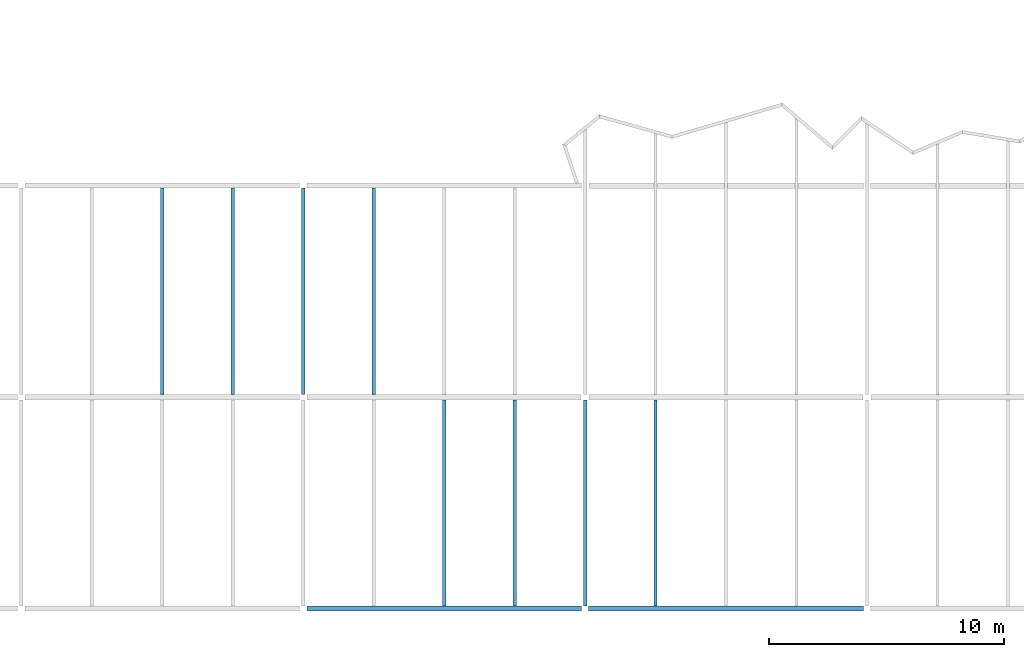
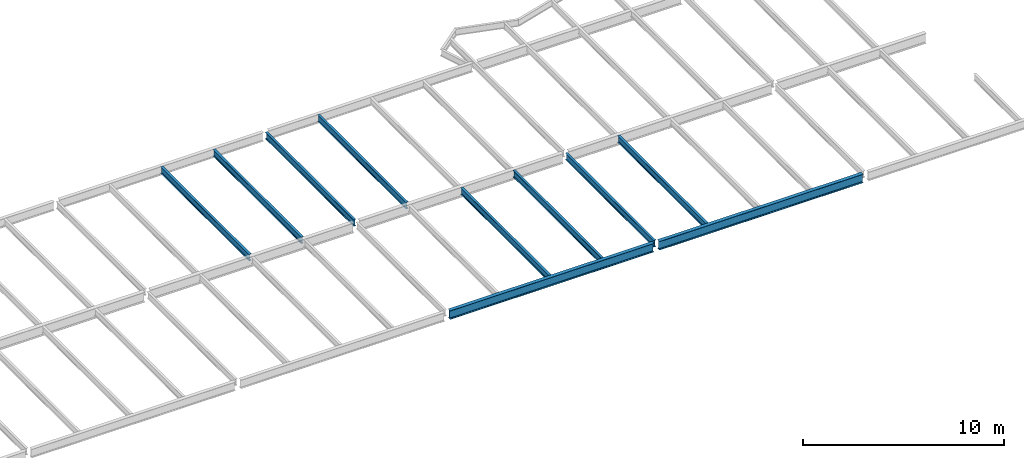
# One storey, part 15 of 21: 10 beams.
"""IFC2X3 building model written with IfcOpenShell, lengths in millimetres."""

import ifcopenshell
import ifcopenshell.guid

model = None  # the IFC model being written
_history = None  # IfcOwnerHistory: only IFC2X3 demands one
_inside = {}  # id of a spatial element -> (the spatial element, [elements in it])
_under = {}  # id of a project, library or spatial element -> (it, [spatial elements below it])
_declared = {}  # id of a project -> (the project, [libraries it declares])
_typed = {}  # id of a type object -> (the type object, [elements of that type])
_made_of = {}  # id of a material, layer set ... -> (it, [elements and type objects made of it])


def new_model(schema):
    """Start an empty IFC model of exactly this schema.

    Asked for "IFC4X3", IfcOpenShell would pick the latest addendum, in which some entities
    have other attributes; the version numbers below select the first issue.
    IFC2X3 requires an IfcOwnerHistory on every rooted entity: one is made here for all.
    """
    global model, _history
    if schema == "IFC4X3":
        model = ifcopenshell.file(schema_version=(4, 3, 0, 0))
    else:
        model = ifcopenshell.file(schema=schema)
    _inside.clear()
    _under.clear()
    _declared.clear()
    _typed.clear()
    _made_of.clear()
    _history = None
    if model.schema == "IFC2X3":
        org = make("IfcOrganization", Name="unknown")
        user = make(
            "IfcPersonAndOrganization",
            ThePerson=make("IfcPerson", FamilyName="unknown"),
            TheOrganization=org,
        )
        app = make(
            "IfcApplication",
            ApplicationDeveloper=org,
            Version="unknown",
            ApplicationFullName="unknown",
            ApplicationIdentifier="unknown",
        )
        _history = make(
            "IfcOwnerHistory",
            OwningUser=user,
            OwningApplication=app,
            ChangeAction="ADDED",
            CreationDate=0,
        )
    return model


def make(cls, **values):
    """One entity of the class cls with the attributes given. An attribute that is None is left unset."""
    return model.create_entity(
        cls, **{name: value for name, value in values.items() if value is not None}
    )


def rooted(cls, **values):
    """An entity with a GlobalId (a new one), such as an element, a storey or a relation."""
    return make(cls, GlobalId=ifcopenshell.guid.new(), OwnerHistory=_history, **values)


def si_unit(unit_type, name, prefix=None):
    """IfcSIUnit, for example si_unit("LENGTHUNIT", "METRE", prefix="MILLI")."""
    return make("IfcSIUnit", UnitType=unit_type, Prefix=prefix, Name=name)


def assignment(units):
    """IfcUnitAssignment: the units of a project."""
    return None if units is None else make("IfcUnitAssignment", Units=units)


def point(xyz):
    """IfcCartesianPoint."""
    return None if xyz is None else make("IfcCartesianPoint", Coordinates=xyz)


def direction(xyz):
    """IfcDirection."""
    return None if xyz is None else make("IfcDirection", DirectionRatios=xyz)


def frame(location, z_axis=None, x_axis=None):
    """IfcAxis2Placement3D, a coordinate frame: its origin and axes. An axis left out is left unset."""
    return make(
        "IfcAxis2Placement3D",
        Location=point(location),
        Axis=direction(z_axis),
        RefDirection=direction(x_axis),
    )


def origin():
    """The frame at (0, 0, 0) with its axes left unset."""
    return frame((0.0, 0.0, 0.0))


def place(relative_to, where):
    """IfcLocalPlacement: puts the frame where relative to a parent placement (None: the world)."""
    return make(
        "IfcLocalPlacement", PlacementRelTo=relative_to, RelativePlacement=where
    )


def context(
    kind, dimensions, precision=None, world=None, true_north=None, identifier=None
):
    """IfcGeometricRepresentationContext, for example the 3D "Model" context."""
    return make(
        "IfcGeometricRepresentationContext",
        ContextIdentifier=identifier,
        ContextType=kind,
        CoordinateSpaceDimension=dimensions,
        Precision=precision,
        WorldCoordinateSystem=world,
        TrueNorth=true_north,
    )


def project(units=None, contexts=None):
    """IfcProject with its units and contexts."""
    return rooted(
        "IfcProject",
        Name="project",
        RepresentationContexts=contexts,
        UnitsInContext=assignment(units),
    )


def spatial(cls, under=None, at=None, **own):
    """A site, building, storey or space (cls), placed at a placement, below another one or the project."""
    s = rooted(cls, ObjectPlacement=at, **own)
    if under is not None:
        _under.setdefault(under.id(), (under, []))[1].append(s)
    return s


def faces_of(points, faces, orient=None, outer=None):
    """IfcFace entities. A face is a list of loops; a loop is a list of indices into points, from 0.

    orient and outer hold one flag for each loop. By default every Orientation is true, the
    first loop of a face is its IfcFaceOuterBound and the others are IfcFaceBound.
    """
    made = []
    for i, loops in enumerate(faces):
        bounds = []
        for j, loop in enumerate(loops):
            is_outer = j == 0 if outer is None else outer[i][j]
            bounds.append(
                make(
                    "IfcFaceOuterBound" if is_outer else "IfcFaceBound",
                    Bound=make("IfcPolyLoop", Polygon=[points[k] for k in loop]),
                    Orientation=True if orient is None else orient[i][j],
                )
            )
        made.append(make("IfcFace", Bounds=bounds))
    return made


def faceted_brep(points, faces, orient=None, outer=None, voids=None):
    """IfcFacetedBrep: a solid bounded by flat faces; with voids (closed shells), ...WithVoids."""
    shared = [point(p) for p in points]
    hull = make("IfcClosedShell", CfsFaces=faces_of(shared, faces, orient, outer))
    if voids is None:
        return make("IfcFacetedBrep", Outer=hull)
    return make(
        "IfcFacetedBrepWithVoids",
        Outer=hull,
        Voids=[
            make(cls, CfsFaces=faces_of(shared, fs, o, b)) for cls, fs, o, b in voids
        ],
    )


def shape(context_of_items, identifier, shape_type, items):
    """IfcShapeRepresentation: the items that make up one representation, for example the "Body"."""
    return make(
        "IfcShapeRepresentation",
        ContextOfItems=context_of_items,
        RepresentationIdentifier=identifier,
        RepresentationType=shape_type,
        Items=items,
    )


def material(Name=None, Category=None):
    """IfcMaterial."""
    return make("IfcMaterial", Name=Name, Category=Category)


def made_of(thing, what):
    """Note that an element or type object is made of a material, layer set ...; save() writes the relation."""
    if what is not None:
        _made_of.setdefault(what.id(), (what, []))[1].append(thing)
    return thing


def element(
    cls,
    number,
    at=None,
    inside=None,
    cuts=None,
    type_object=None,
    material=None,
    context=None,
    identifier="Body",
    shape_type=None,
    held_by="IfcProductDefinitionShape",
    body=None,
    shapes=None,
    **own,
):
    """One element of the class cls, such as IfcWall. Its Tag is "e" and its number.

    at: its placement. inside: the storey or other place that contains it. cuts: it is an
    opening in that element (IfcRelVoidsElement). A single representation is given by context,
    identifier, shape_type and body (its items); several are given by shapes. held_by: the class
    of the entity that holds the representations. save() writes the other relations.
    """
    e = rooted(cls, Tag="e%d" % number, ObjectPlacement=at, **own)
    if body is not None:
        shapes = [shape(context, identifier, shape_type, body)]
    if shapes is not None:
        e.Representation = make(held_by, Representations=shapes)
    if inside is not None:
        _inside.setdefault(inside.id(), (inside, []))[1].append(e)
    if cuts is not None:
        rooted(
            "IfcRelVoidsElement", RelatingBuildingElement=cuts, RelatedOpeningElement=e
        )
    if type_object is not None:
        _typed.setdefault(type_object.id(), (type_object, []))[1].append(e)
    return made_of(e, material)


def aggregate(whole, parts):
    """IfcRelAggregates: a whole, such as a stair, and the parts it consists of."""
    return rooted("IfcRelAggregates", RelatingObject=whole, RelatedObjects=parts)


def save(model, path):
    """Write the relations noted so far, then the file.

    IfcRelAggregates (storeys below a building ...), IfcRelContainedInSpatialStructure (elements
    in a storey), IfcRelDefinesByType, IfcRelAssociatesMaterial and IfcRelDeclares: one each for
    every whole, place, type object, material and project.
    """
    for whole, parts in _under.values():
        aggregate(whole, parts)
    for where, things in _inside.values():
        rooted(
            "IfcRelContainedInSpatialStructure",
            RelatedElements=things,
            RelatingStructure=where,
        )
    for kind, things in _typed.values():
        rooted("IfcRelDefinesByType", RelatedObjects=things, RelatingType=kind)
    for what, things in _made_of.values():
        rooted("IfcRelAssociatesMaterial", RelatedObjects=things, RelatingMaterial=what)
    for by, libraries in _declared.values():
        rooted("IfcRelDeclares", RelatingContext=by, RelatedDefinitions=libraries)
    model.write(path)


model = new_model("IFC2X3")

# Units and contexts
context_of_model = context(None, 3, precision=1e-05, world=origin())
ifc_project = project(units=[si_unit("LENGTHUNIT", "METRE", prefix="MILLI")], contexts=[context_of_model])

# Building, storey
building = spatial("IfcBuilding", under=ifc_project, Name="Building", CompositionType="ELEMENT")
storey = spatial("IfcBuildingStorey", under=building, Name="FL3-FRM", CompositionType="ELEMENT")

# Beams
ifc_material_1 = material(Name="A992")
beam_1_placement = place(None, origin())
element("IfcBeam", 1, at=beam_1_placement, inside=storey, material=ifc_material_1, Name="B464", context=context_of_model, shape_type="Brep", body=[
    faceted_brep([(41930.0, 26895.5, 8474.0), (42070.0, 26895.5, 8474.0), (42070.0, 18114.5, 8474.0), (41930.0, 18114.5, 8474.0), (42070.0, 26895.5, 8482.8), (42070.0, 18114.5, 8482.8), (42013.4, 26895.5, 8482.8), (42013.4, 18114.5, 8482.8), (42010.8, 26895.5, 8483.15), (42010.8, 18114.5, 8483.15), (42008.3, 26895.5, 8484.17), (42008.3, 18114.5, 8484.17), (42006.2, 26895.5, 8485.79), (42006.2, 18114.5, 8485.79), (42004.6, 26895.5, 8487.9), (42004.6, 18114.5, 8487.9), (42003.5, 26895.5, 8490.36), (42003.5, 18114.5, 8490.36), (42003.2, 26895.5, 8493.0), (42003.2, 18114.5, 8493.0), (42003.2, 26895.5, 8854.0), (42003.2, 18114.5, 8854.0), (42003.5, 26895.5, 8856.64), (42003.5, 18114.5, 8856.64), (42004.6, 26895.5, 8859.1), (42004.6, 18114.5, 8859.1), (42006.2, 26895.5, 8861.21), (42006.2, 18114.5, 8861.21), (42008.3, 26895.5, 8862.83), (42008.3, 18114.5, 8862.83), (42010.8, 26895.5, 8863.85), (42010.8, 18114.5, 8863.85), (42013.4, 26895.5, 8864.2), (42013.4, 18114.5, 8864.2), (42070.0, 26895.5, 8864.2), (42070.0, 18114.5, 8864.2), (42070.0, 26895.5, 8873.0), (42070.0, 18114.5, 8873.0), (41930.0, 26895.5, 8873.0), (41930.0, 18114.5, 8873.0), (41930.0, 26895.5, 8864.2), (41930.0, 18114.5, 8864.2), (41986.6, 26895.5, 8864.2), (41986.6, 18114.5, 8864.2), (41989.2, 26895.5, 8863.85), (41989.2, 18114.5, 8863.85), (41991.7, 26895.5, 8862.83), (41991.7, 18114.5, 8862.83), (41993.8, 26895.5, 8861.21), (41993.8, 18114.5, 8861.21), (41995.4, 26895.5, 8859.1), (41995.4, 18114.5, 8859.1), (41996.5, 26895.5, 8856.64), (41996.5, 18114.5, 8856.64), (41996.8, 26895.5, 8854.0), (41996.8, 18114.5, 8854.0), (41996.8, 26895.5, 8493.0), (41996.8, 18114.5, 8493.0), (41996.5, 26895.5, 8490.36), (41996.5, 18114.5, 8490.36), (41995.4, 26895.5, 8487.9), (41995.4, 18114.5, 8487.9), (41993.8, 26895.5, 8485.79), (41993.8, 18114.5, 8485.79), (41991.7, 26895.5, 8484.17), (41991.7, 18114.5, 8484.17), (41989.2, 26895.5, 8483.15), (41989.2, 18114.5, 8483.15), (41986.6, 26895.5, 8482.8), (41986.6, 18114.5, 8482.8), (41930.0, 26895.5, 8482.8), (41930.0, 18114.5, 8482.8)], [[[0, 1, 2, 3]], [[1, 4, 5, 2]], [[4, 6, 7, 5]], [[6, 8, 9, 7]], [[8, 10, 11, 9]], [[10, 12, 13, 11]], [[12, 14, 15, 13]], [[14, 16, 17, 15]], [[16, 18, 19, 17]], [[18, 20, 21, 19]], [[20, 22, 23, 21]], [[22, 24, 25, 23]], [[24, 26, 27, 25]], [[26, 28, 29, 27]], [[28, 30, 31, 29]], [[30, 32, 33, 31]], [[32, 34, 35, 33]], [[34, 36, 37, 35]], [[36, 38, 39, 37]], [[38, 40, 41, 39]], [[40, 42, 43, 41]], [[42, 44, 45, 43]], [[44, 46, 47, 45]], [[46, 48, 49, 47]], [[48, 50, 51, 49]], [[50, 52, 53, 51]], [[52, 54, 55, 53]], [[54, 56, 57, 55]], [[56, 58, 59, 57]], [[58, 60, 61, 59]], [[60, 62, 63, 61]], [[62, 64, 65, 63]], [[64, 66, 67, 65]], [[66, 68, 69, 67]], [[68, 70, 71, 69]], [[70, 0, 3, 71]], [[0, 70, 68, 66, 64, 62, 60, 58, 56, 54, 52, 50, 48, 46, 44, 42, 40, 38, 36, 34, 32, 30, 28, 26, 24, 22, 20, 18, 16, 14, 12, 10, 8, 6, 4, 1]], [[3, 2, 5, 7, 9, 11, 13, 15, 17, 19, 21, 23, 25, 27, 29, 31, 33, 35, 37, 39, 41, 43, 45, 47, 49, 51, 53, 55, 57, 59, 61, 63, 65, 67, 69, 71]]]),
])
ifc_material_2 = material(Name="A992")
beam_2_placement = place(None, origin())
element("IfcBeam", 2, at=beam_2_placement, inside=storey, material=ifc_material_2, Name="B465", context=context_of_model, shape_type="Brep", body=[
    faceted_brep([(44930.0, 26895.5, 8474.0), (45070.0, 26895.5, 8474.0), (45070.0, 18114.5, 8474.0), (44930.0, 18114.5, 8474.0), (45070.0, 26895.5, 8482.8), (45070.0, 18114.5, 8482.8), (45013.4, 26895.5, 8482.8), (45013.4, 18114.5, 8482.8), (45010.8, 26895.5, 8483.15), (45010.8, 18114.5, 8483.15), (45008.3, 26895.5, 8484.17), (45008.3, 18114.5, 8484.17), (45006.2, 26895.5, 8485.79), (45006.2, 18114.5, 8485.79), (45004.6, 26895.5, 8487.9), (45004.6, 18114.5, 8487.9), (45003.5, 26895.5, 8490.36), (45003.5, 18114.5, 8490.36), (45003.2, 26895.5, 8493.0), (45003.2, 18114.5, 8493.0), (45003.2, 26895.5, 8854.0), (45003.2, 18114.5, 8854.0), (45003.5, 26895.5, 8856.64), (45003.5, 18114.5, 8856.64), (45004.6, 26895.5, 8859.1), (45004.6, 18114.5, 8859.1), (45006.2, 26895.5, 8861.21), (45006.2, 18114.5, 8861.21), (45008.3, 26895.5, 8862.83), (45008.3, 18114.5, 8862.83), (45010.8, 26895.5, 8863.85), (45010.8, 18114.5, 8863.85), (45013.4, 26895.5, 8864.2), (45013.4, 18114.5, 8864.2), (45070.0, 26895.5, 8864.2), (45070.0, 18114.5, 8864.2), (45070.0, 26895.5, 8873.0), (45070.0, 18114.5, 8873.0), (44930.0, 26895.5, 8873.0), (44930.0, 18114.5, 8873.0), (44930.0, 26895.5, 8864.2), (44930.0, 18114.5, 8864.2), (44986.6, 26895.5, 8864.2), (44986.6, 18114.5, 8864.2), (44989.2, 26895.5, 8863.85), (44989.2, 18114.5, 8863.85), (44991.7, 26895.5, 8862.83), (44991.7, 18114.5, 8862.83), (44993.8, 26895.5, 8861.21), (44993.8, 18114.5, 8861.21), (44995.4, 26895.5, 8859.1), (44995.4, 18114.5, 8859.1), (44996.5, 26895.5, 8856.64), (44996.5, 18114.5, 8856.64), (44996.8, 26895.5, 8854.0), (44996.8, 18114.5, 8854.0), (44996.8, 26895.5, 8493.0), (44996.8, 18114.5, 8493.0), (44996.5, 26895.5, 8490.36), (44996.5, 18114.5, 8490.36), (44995.4, 26895.5, 8487.9), (44995.4, 18114.5, 8487.9), (44993.8, 26895.5, 8485.79), (44993.8, 18114.5, 8485.79), (44991.7, 26895.5, 8484.17), (44991.7, 18114.5, 8484.17), (44989.2, 26895.5, 8483.15), (44989.2, 18114.5, 8483.15), (44986.6, 26895.5, 8482.8), (44986.6, 18114.5, 8482.8), (44930.0, 26895.5, 8482.8), (44930.0, 18114.5, 8482.8)], [[[0, 1, 2, 3]], [[1, 4, 5, 2]], [[4, 6, 7, 5]], [[6, 8, 9, 7]], [[8, 10, 11, 9]], [[10, 12, 13, 11]], [[12, 14, 15, 13]], [[14, 16, 17, 15]], [[16, 18, 19, 17]], [[18, 20, 21, 19]], [[20, 22, 23, 21]], [[22, 24, 25, 23]], [[24, 26, 27, 25]], [[26, 28, 29, 27]], [[28, 30, 31, 29]], [[30, 32, 33, 31]], [[32, 34, 35, 33]], [[34, 36, 37, 35]], [[36, 38, 39, 37]], [[38, 40, 41, 39]], [[40, 42, 43, 41]], [[42, 44, 45, 43]], [[44, 46, 47, 45]], [[46, 48, 49, 47]], [[48, 50, 51, 49]], [[50, 52, 53, 51]], [[52, 54, 55, 53]], [[54, 56, 57, 55]], [[56, 58, 59, 57]], [[58, 60, 61, 59]], [[60, 62, 63, 61]], [[62, 64, 65, 63]], [[64, 66, 67, 65]], [[66, 68, 69, 67]], [[68, 70, 71, 69]], [[70, 0, 3, 71]], [[0, 70, 68, 66, 64, 62, 60, 58, 56, 54, 52, 50, 48, 46, 44, 42, 40, 38, 36, 34, 32, 30, 28, 26, 24, 22, 20, 18, 16, 14, 12, 10, 8, 6, 4, 1]], [[3, 2, 5, 7, 9, 11, 13, 15, 17, 19, 21, 23, 25, 27, 29, 31, 33, 35, 37, 39, 41, 43, 45, 47, 49, 51, 53, 55, 57, 59, 61, 63, 65, 67, 69, 71]]]),
])
ifc_material_3 = material(Name="A992")
beam_3_placement = place(None, origin())
element("IfcBeam", 3, at=beam_3_placement, inside=storey, material=ifc_material_3, Name="B471", context=context_of_model, shape_type="Brep", body=[
    faceted_brep([(50930.0, 26895.5, 8474.0), (51070.0, 26895.5, 8474.0), (51070.0, 18114.5, 8474.0), (50930.0, 18114.5, 8474.0), (51070.0, 26895.5, 8482.8), (51070.0, 18114.5, 8482.8), (51013.4, 26895.5, 8482.8), (51013.4, 18114.5, 8482.8), (51010.8, 26895.5, 8483.15), (51010.8, 18114.5, 8483.15), (51008.3, 26895.5, 8484.17), (51008.3, 18114.5, 8484.17), (51006.2, 26895.5, 8485.79), (51006.2, 18114.5, 8485.79), (51004.6, 26895.5, 8487.9), (51004.6, 18114.5, 8487.9), (51003.5, 26895.5, 8490.36), (51003.5, 18114.5, 8490.36), (51003.2, 26895.5, 8493.0), (51003.2, 18114.5, 8493.0), (51003.2, 26895.5, 8854.0), (51003.2, 18114.5, 8854.0), (51003.5, 26895.5, 8856.64), (51003.5, 18114.5, 8856.64), (51004.6, 26895.5, 8859.1), (51004.6, 18114.5, 8859.1), (51006.2, 26895.5, 8861.21), (51006.2, 18114.5, 8861.21), (51008.3, 26895.5, 8862.83), (51008.3, 18114.5, 8862.83), (51010.8, 26895.5, 8863.85), (51010.8, 18114.5, 8863.85), (51013.4, 26895.5, 8864.2), (51013.4, 18114.5, 8864.2), (51070.0, 26895.5, 8864.2), (51070.0, 18114.5, 8864.2), (51070.0, 26895.5, 8873.0), (51070.0, 18114.5, 8873.0), (50930.0, 26895.5, 8873.0), (50930.0, 18114.5, 8873.0), (50930.0, 26895.5, 8864.2), (50930.0, 18114.5, 8864.2), (50986.6, 26895.5, 8864.2), (50986.6, 18114.5, 8864.2), (50989.2, 26895.5, 8863.85), (50989.2, 18114.5, 8863.85), (50991.7, 26895.5, 8862.83), (50991.7, 18114.5, 8862.83), (50993.8, 26895.5, 8861.21), (50993.8, 18114.5, 8861.21), (50995.4, 26895.5, 8859.1), (50995.4, 18114.5, 8859.1), (50996.5, 26895.5, 8856.64), (50996.5, 18114.5, 8856.64), (50996.8, 26895.5, 8854.0), (50996.8, 18114.5, 8854.0), (50996.8, 26895.5, 8493.0), (50996.8, 18114.5, 8493.0), (50996.5, 26895.5, 8490.36), (50996.5, 18114.5, 8490.36), (50995.4, 26895.5, 8487.9), (50995.4, 18114.5, 8487.9), (50993.8, 26895.5, 8485.79), (50993.8, 18114.5, 8485.79), (50991.7, 26895.5, 8484.17), (50991.7, 18114.5, 8484.17), (50989.2, 26895.5, 8483.15), (50989.2, 18114.5, 8483.15), (50986.6, 26895.5, 8482.8), (50986.6, 18114.5, 8482.8), (50930.0, 26895.5, 8482.8), (50930.0, 18114.5, 8482.8)], [[[0, 1, 2, 3]], [[1, 4, 5, 2]], [[4, 6, 7, 5]], [[6, 8, 9, 7]], [[8, 10, 11, 9]], [[10, 12, 13, 11]], [[12, 14, 15, 13]], [[14, 16, 17, 15]], [[16, 18, 19, 17]], [[18, 20, 21, 19]], [[20, 22, 23, 21]], [[22, 24, 25, 23]], [[24, 26, 27, 25]], [[26, 28, 29, 27]], [[28, 30, 31, 29]], [[30, 32, 33, 31]], [[32, 34, 35, 33]], [[34, 36, 37, 35]], [[36, 38, 39, 37]], [[38, 40, 41, 39]], [[40, 42, 43, 41]], [[42, 44, 45, 43]], [[44, 46, 47, 45]], [[46, 48, 49, 47]], [[48, 50, 51, 49]], [[50, 52, 53, 51]], [[52, 54, 55, 53]], [[54, 56, 57, 55]], [[56, 58, 59, 57]], [[58, 60, 61, 59]], [[60, 62, 63, 61]], [[62, 64, 65, 63]], [[64, 66, 67, 65]], [[66, 68, 69, 67]], [[68, 70, 71, 69]], [[70, 0, 3, 71]], [[0, 70, 68, 66, 64, 62, 60, 58, 56, 54, 52, 50, 48, 46, 44, 42, 40, 38, 36, 34, 32, 30, 28, 26, 24, 22, 20, 18, 16, 14, 12, 10, 8, 6, 4, 1]], [[3, 2, 5, 7, 9, 11, 13, 15, 17, 19, 21, 23, 25, 27, 29, 31, 33, 35, 37, 39, 41, 43, 45, 47, 49, 51, 53, 55, 57, 59, 61, 63, 65, 67, 69, 71]]]),
])
ifc_material_4 = material(Name="A992")
beam_4_placement = place(None, origin())
element("IfcBeam", 4, at=beam_4_placement, inside=storey, material=ifc_material_4, Name="B474", context=context_of_model, shape_type="Brep", body=[
    faceted_brep([(48070.0, 18114.5, 8474.0), (47930.0, 18114.5, 8474.0), (47930.0, 26895.5, 8474.0), (48070.0, 26895.5, 8474.0), (47930.0, 18114.5, 8482.8), (47930.0, 26895.5, 8482.8), (47986.6, 18114.5, 8482.8), (47986.6, 26895.5, 8482.8), (47989.2, 18114.5, 8483.15), (47989.2, 26895.5, 8483.15), (47991.7, 18114.5, 8484.17), (47991.7, 26895.5, 8484.17), (47993.8, 18114.5, 8485.79), (47993.8, 26895.5, 8485.79), (47995.4, 18114.5, 8487.9), (47995.4, 26895.5, 8487.9), (47996.5, 18114.5, 8490.36), (47996.5, 26895.5, 8490.36), (47996.8, 18114.5, 8493.0), (47996.8, 26895.5, 8493.0), (47996.8, 18114.5, 8854.0), (47996.8, 26895.5, 8854.0), (47996.5, 18114.5, 8856.64), (47996.5, 26895.5, 8856.64), (47995.4, 18114.5, 8859.1), (47995.4, 26895.5, 8859.1), (47993.8, 18114.5, 8861.21), (47993.8, 26895.5, 8861.21), (47991.7, 18114.5, 8862.83), (47991.7, 26895.5, 8862.83), (47989.2, 18114.5, 8863.85), (47989.2, 26895.5, 8863.85), (47986.6, 18114.5, 8864.2), (47986.6, 26895.5, 8864.2), (47930.0, 18114.5, 8864.2), (47930.0, 26895.5, 8864.2), (47930.0, 18114.5, 8873.0), (47930.0, 26895.5, 8873.0), (48070.0, 18114.5, 8873.0), (48070.0, 26895.5, 8873.0), (48070.0, 18114.5, 8864.2), (48070.0, 26895.5, 8864.2), (48013.4, 18114.5, 8864.2), (48013.4, 26895.5, 8864.2), (48010.8, 18114.5, 8863.85), (48010.8, 26895.5, 8863.85), (48008.3, 18114.5, 8862.83), (48008.3, 26895.5, 8862.83), (48006.2, 18114.5, 8861.21), (48006.2, 26895.5, 8861.21), (48004.6, 18114.5, 8859.1), (48004.6, 26895.5, 8859.1), (48003.5, 18114.5, 8856.64), (48003.5, 26895.5, 8856.64), (48003.2, 18114.5, 8854.0), (48003.2, 26895.5, 8854.0), (48003.2, 18114.5, 8493.0), (48003.2, 26895.5, 8493.0), (48003.5, 18114.5, 8490.36), (48003.5, 26895.5, 8490.36), (48004.6, 18114.5, 8487.9), (48004.6, 26895.5, 8487.9), (48006.2, 18114.5, 8485.79), (48006.2, 26895.5, 8485.79), (48008.3, 18114.5, 8484.17), (48008.3, 26895.5, 8484.17), (48010.8, 18114.5, 8483.15), (48010.8, 26895.5, 8483.15), (48013.4, 18114.5, 8482.8), (48013.4, 26895.5, 8482.8), (48070.0, 18114.5, 8482.8), (48070.0, 26895.5, 8482.8)], [[[0, 1, 2, 3]], [[1, 4, 5, 2]], [[4, 6, 7, 5]], [[6, 8, 9, 7]], [[8, 10, 11, 9]], [[10, 12, 13, 11]], [[12, 14, 15, 13]], [[14, 16, 17, 15]], [[16, 18, 19, 17]], [[18, 20, 21, 19]], [[20, 22, 23, 21]], [[22, 24, 25, 23]], [[24, 26, 27, 25]], [[26, 28, 29, 27]], [[28, 30, 31, 29]], [[30, 32, 33, 31]], [[32, 34, 35, 33]], [[34, 36, 37, 35]], [[36, 38, 39, 37]], [[38, 40, 41, 39]], [[40, 42, 43, 41]], [[42, 44, 45, 43]], [[44, 46, 47, 45]], [[46, 48, 49, 47]], [[48, 50, 51, 49]], [[50, 52, 53, 51]], [[52, 54, 55, 53]], [[54, 56, 57, 55]], [[56, 58, 59, 57]], [[58, 60, 61, 59]], [[60, 62, 63, 61]], [[62, 64, 65, 63]], [[64, 66, 67, 65]], [[66, 68, 69, 67]], [[68, 70, 71, 69]], [[70, 0, 3, 71]], [[0, 70, 68, 66, 64, 62, 60, 58, 56, 54, 52, 50, 48, 46, 44, 42, 40, 38, 36, 34, 32, 30, 28, 26, 24, 22, 20, 18, 16, 14, 12, 10, 8, 6, 4, 1]], [[3, 2, 5, 7, 9, 11, 13, 15, 17, 19, 21, 23, 25, 27, 29, 31, 33, 35, 37, 39, 41, 43, 45, 47, 49, 51, 53, 55, 57, 59, 61, 63, 65, 67, 69, 71]]]),
])
ifc_material_5 = material(Name="A992")
beam_5_placement = place(None, origin())
element("IfcBeam", 5, at=beam_5_placement, inside=storey, material=ifc_material_5, Name="B476", context=context_of_model, shape_type="Brep", body=[
    faceted_brep([(54070.0, 9104.5, 8474.0), (53930.0, 9104.5, 8474.0), (53930.0, 17885.5, 8474.0), (54070.0, 17885.5, 8474.0), (53930.0, 9104.5, 8482.8), (53930.0, 17885.5, 8482.8), (53986.6, 9104.5, 8482.8), (53986.6, 17885.5, 8482.8), (53989.2, 9104.5, 8483.15), (53989.2, 17885.5, 8483.15), (53991.7, 9104.5, 8484.17), (53991.7, 17885.5, 8484.17), (53993.8, 9104.5, 8485.79), (53993.8, 17885.5, 8485.79), (53995.4, 9104.5, 8487.9), (53995.4, 17885.5, 8487.9), (53996.5, 9104.5, 8490.36), (53996.5, 17885.5, 8490.36), (53996.8, 9104.5, 8493.0), (53996.8, 17885.5, 8493.0), (53996.8, 9104.5, 8854.0), (53996.8, 17885.5, 8854.0), (53996.5, 9104.5, 8856.64), (53996.5, 17885.5, 8856.64), (53995.4, 9104.5, 8859.1), (53995.4, 17885.5, 8859.1), (53993.8, 9104.5, 8861.21), (53993.8, 17885.5, 8861.21), (53991.7, 9104.5, 8862.83), (53991.7, 17885.5, 8862.83), (53989.2, 9104.5, 8863.85), (53989.2, 17885.5, 8863.85), (53986.6, 9104.5, 8864.2), (53986.6, 17885.5, 8864.2), (53930.0, 9104.5, 8864.2), (53930.0, 17885.5, 8864.2), (53930.0, 9104.5, 8873.0), (53930.0, 17885.5, 8873.0), (54070.0, 9104.5, 8873.0), (54070.0, 17885.5, 8873.0), (54070.0, 9104.5, 8864.2), (54070.0, 17885.5, 8864.2), (54013.4, 9104.5, 8864.2), (54013.4, 17885.5, 8864.2), (54010.8, 9104.5, 8863.85), (54010.8, 17885.5, 8863.85), (54008.3, 9104.5, 8862.83), (54008.3, 17885.5, 8862.83), (54006.2, 9104.5, 8861.21), (54006.2, 17885.5, 8861.21), (54004.6, 9104.5, 8859.1), (54004.6, 17885.5, 8859.1), (54003.5, 9104.5, 8856.64), (54003.5, 17885.5, 8856.64), (54003.2, 9104.5, 8854.0), (54003.2, 17885.5, 8854.0), (54003.2, 9104.5, 8493.0), (54003.2, 17885.5, 8493.0), (54003.5, 9104.5, 8490.36), (54003.5, 17885.5, 8490.36), (54004.6, 9104.5, 8487.9), (54004.6, 17885.5, 8487.9), (54006.2, 9104.5, 8485.79), (54006.2, 17885.5, 8485.79), (54008.3, 9104.5, 8484.17), (54008.3, 17885.5, 8484.17), (54010.8, 9104.5, 8483.15), (54010.8, 17885.5, 8483.15), (54013.4, 9104.5, 8482.8), (54013.4, 17885.5, 8482.8), (54070.0, 9104.5, 8482.8), (54070.0, 17885.5, 8482.8)], [[[0, 1, 2, 3]], [[1, 4, 5, 2]], [[4, 6, 7, 5]], [[6, 8, 9, 7]], [[8, 10, 11, 9]], [[10, 12, 13, 11]], [[12, 14, 15, 13]], [[14, 16, 17, 15]], [[16, 18, 19, 17]], [[18, 20, 21, 19]], [[20, 22, 23, 21]], [[22, 24, 25, 23]], [[24, 26, 27, 25]], [[26, 28, 29, 27]], [[28, 30, 31, 29]], [[30, 32, 33, 31]], [[32, 34, 35, 33]], [[34, 36, 37, 35]], [[36, 38, 39, 37]], [[38, 40, 41, 39]], [[40, 42, 43, 41]], [[42, 44, 45, 43]], [[44, 46, 47, 45]], [[46, 48, 49, 47]], [[48, 50, 51, 49]], [[50, 52, 53, 51]], [[52, 54, 55, 53]], [[54, 56, 57, 55]], [[56, 58, 59, 57]], [[58, 60, 61, 59]], [[60, 62, 63, 61]], [[62, 64, 65, 63]], [[64, 66, 67, 65]], [[66, 68, 69, 67]], [[68, 70, 71, 69]], [[70, 0, 3, 71]], [[0, 70, 68, 66, 64, 62, 60, 58, 56, 54, 52, 50, 48, 46, 44, 42, 40, 38, 36, 34, 32, 30, 28, 26, 24, 22, 20, 18, 16, 14, 12, 10, 8, 6, 4, 1]], [[3, 2, 5, 7, 9, 11, 13, 15, 17, 19, 21, 23, 25, 27, 29, 31, 33, 35, 37, 39, 41, 43, 45, 47, 49, 51, 53, 55, 57, 59, 61, 63, 65, 67, 69, 71]]]),
])
ifc_material_6 = material(Name="A992")
beam_6_placement = place(None, origin())
element("IfcBeam", 6, at=beam_6_placement, inside=storey, material=ifc_material_6, Name="B477", context=context_of_model, shape_type="Brep", body=[
    faceted_brep([(57070.0, 9104.5, 8474.0), (56930.0, 9104.5, 8474.0), (56930.0, 17885.5, 8474.0), (57070.0, 17885.5, 8474.0), (56930.0, 9104.5, 8482.8), (56930.0, 17885.5, 8482.8), (56986.6, 9104.5, 8482.8), (56986.6, 17885.5, 8482.8), (56989.2, 9104.5, 8483.15), (56989.2, 17885.5, 8483.15), (56991.7, 9104.5, 8484.17), (56991.7, 17885.5, 8484.17), (56993.8, 9104.5, 8485.79), (56993.8, 17885.5, 8485.79), (56995.4, 9104.5, 8487.9), (56995.4, 17885.5, 8487.9), (56996.5, 9104.5, 8490.36), (56996.5, 17885.5, 8490.36), (56996.8, 9104.5, 8493.0), (56996.8, 17885.5, 8493.0), (56996.8, 9104.5, 8854.0), (56996.8, 17885.5, 8854.0), (56996.5, 9104.5, 8856.64), (56996.5, 17885.5, 8856.64), (56995.4, 9104.5, 8859.1), (56995.4, 17885.5, 8859.1), (56993.8, 9104.5, 8861.21), (56993.8, 17885.5, 8861.21), (56991.7, 9104.5, 8862.83), (56991.7, 17885.5, 8862.83), (56989.2, 9104.5, 8863.85), (56989.2, 17885.5, 8863.85), (56986.6, 9104.5, 8864.2), (56986.6, 17885.5, 8864.2), (56930.0, 9104.5, 8864.2), (56930.0, 17885.5, 8864.2), (56930.0, 9104.5, 8873.0), (56930.0, 17885.5, 8873.0), (57070.0, 9104.5, 8873.0), (57070.0, 17885.5, 8873.0), (57070.0, 9104.5, 8864.2), (57070.0, 17885.5, 8864.2), (57013.4, 9104.5, 8864.2), (57013.4, 17885.5, 8864.2), (57010.8, 9104.5, 8863.85), (57010.8, 17885.5, 8863.85), (57008.3, 9104.5, 8862.83), (57008.3, 17885.5, 8862.83), (57006.2, 9104.5, 8861.21), (57006.2, 17885.5, 8861.21), (57004.6, 9104.5, 8859.1), (57004.6, 17885.5, 8859.1), (57003.5, 9104.5, 8856.64), (57003.5, 17885.5, 8856.64), (57003.2, 9104.5, 8854.0), (57003.2, 17885.5, 8854.0), (57003.2, 9104.5, 8493.0), (57003.2, 17885.5, 8493.0), (57003.5, 9104.5, 8490.36), (57003.5, 17885.5, 8490.36), (57004.6, 9104.5, 8487.9), (57004.6, 17885.5, 8487.9), (57006.2, 9104.5, 8485.79), (57006.2, 17885.5, 8485.79), (57008.3, 9104.5, 8484.17), (57008.3, 17885.5, 8484.17), (57010.8, 9104.5, 8483.15), (57010.8, 17885.5, 8483.15), (57013.4, 9104.5, 8482.8), (57013.4, 17885.5, 8482.8), (57070.0, 9104.5, 8482.8), (57070.0, 17885.5, 8482.8)], [[[0, 1, 2, 3]], [[1, 4, 5, 2]], [[4, 6, 7, 5]], [[6, 8, 9, 7]], [[8, 10, 11, 9]], [[10, 12, 13, 11]], [[12, 14, 15, 13]], [[14, 16, 17, 15]], [[16, 18, 19, 17]], [[18, 20, 21, 19]], [[20, 22, 23, 21]], [[22, 24, 25, 23]], [[24, 26, 27, 25]], [[26, 28, 29, 27]], [[28, 30, 31, 29]], [[30, 32, 33, 31]], [[32, 34, 35, 33]], [[34, 36, 37, 35]], [[36, 38, 39, 37]], [[38, 40, 41, 39]], [[40, 42, 43, 41]], [[42, 44, 45, 43]], [[44, 46, 47, 45]], [[46, 48, 49, 47]], [[48, 50, 51, 49]], [[50, 52, 53, 51]], [[52, 54, 55, 53]], [[54, 56, 57, 55]], [[56, 58, 59, 57]], [[58, 60, 61, 59]], [[60, 62, 63, 61]], [[62, 64, 65, 63]], [[64, 66, 67, 65]], [[66, 68, 69, 67]], [[68, 70, 71, 69]], [[70, 0, 3, 71]], [[0, 70, 68, 66, 64, 62, 60, 58, 56, 54, 52, 50, 48, 46, 44, 42, 40, 38, 36, 34, 32, 30, 28, 26, 24, 22, 20, 18, 16, 14, 12, 10, 8, 6, 4, 1]], [[3, 2, 5, 7, 9, 11, 13, 15, 17, 19, 21, 23, 25, 27, 29, 31, 33, 35, 37, 39, 41, 43, 45, 47, 49, 51, 53, 55, 57, 59, 61, 63, 65, 67, 69, 71]]]),
])
ifc_material_7 = material(Name="A992")
beam_7_placement = place(None, origin())
element("IfcBeam", 7, at=beam_7_placement, inside=storey, material=ifc_material_7, Name="Column480", context=context_of_model, shape_type="Brep", body=[
    faceted_brep([(48154.0, 8895.5, 8345.0), (48154.0, 9104.5, 8345.0), (59846.0, 9104.5, 8345.0), (59846.0, 8895.5, 8345.0), (48154.0, 9104.5, 8358.3), (59846.0, 9104.5, 8358.3), (48154.0, 9017.45, 8358.3), (59846.0, 9017.45, 8358.3), (48154.0, 9014.16, 8358.73), (59846.0, 9014.16, 8358.73), (48154.0, 9011.1, 8360.0), (59846.0, 9011.1, 8360.0), (48154.0, 9008.47, 8362.02), (59846.0, 9008.47, 8362.02), (48154.0, 9006.45, 8364.65), (59846.0, 9006.45, 8364.65), (48154.0, 9005.18, 8367.71), (59846.0, 9005.18, 8367.71), (48154.0, 9004.75, 8371.0), (59846.0, 9004.75, 8371.0), (48154.0, 9004.75, 8847.0), (59846.0, 9004.75, 8847.0), (48154.0, 9005.18, 8850.29), (59846.0, 9005.18, 8850.29), (48154.0, 9006.45, 8853.35), (59846.0, 9006.45, 8853.35), (48154.0, 9008.47, 8855.98), (59846.0, 9008.47, 8855.98), (48154.0, 9011.1, 8858.0), (59846.0, 9011.1, 8858.0), (48154.0, 9014.16, 8859.27), (59846.0, 9014.16, 8859.27), (48154.0, 9017.45, 8859.7), (59846.0, 9017.45, 8859.7), (48154.0, 9104.5, 8859.7), (59846.0, 9104.5, 8859.7), (48154.0, 9104.5, 8873.0), (59846.0, 9104.5, 8873.0), (48154.0, 8895.5, 8873.0), (59846.0, 8895.5, 8873.0), (48154.0, 8895.5, 8859.7), (59846.0, 8895.5, 8859.7), (48154.0, 8982.55, 8859.7), (59846.0, 8982.55, 8859.7), (48154.0, 8985.84, 8859.27), (59846.0, 8985.84, 8859.27), (48154.0, 8988.9, 8858.0), (59846.0, 8988.9, 8858.0), (48154.0, 8991.53, 8855.98), (59846.0, 8991.53, 8855.98), (48154.0, 8993.55, 8853.35), (59846.0, 8993.55, 8853.35), (48154.0, 8994.82, 8850.29), (59846.0, 8994.82, 8850.29), (48154.0, 8995.25, 8847.0), (59846.0, 8995.25, 8847.0), (48154.0, 8995.25, 8371.0), (59846.0, 8995.25, 8371.0), (48154.0, 8994.82, 8367.71), (59846.0, 8994.82, 8367.71), (48154.0, 8993.55, 8364.65), (59846.0, 8993.55, 8364.65), (48154.0, 8991.53, 8362.02), (59846.0, 8991.53, 8362.02), (48154.0, 8988.9, 8360.0), (59846.0, 8988.9, 8360.0), (48154.0, 8985.84, 8358.73), (59846.0, 8985.84, 8358.73), (48154.0, 8982.55, 8358.3), (59846.0, 8982.55, 8358.3), (48154.0, 8895.5, 8358.3), (59846.0, 8895.5, 8358.3)], [[[0, 1, 2, 3]], [[1, 4, 5, 2]], [[4, 6, 7, 5]], [[6, 8, 9, 7]], [[8, 10, 11, 9]], [[10, 12, 13, 11]], [[12, 14, 15, 13]], [[14, 16, 17, 15]], [[16, 18, 19, 17]], [[18, 20, 21, 19]], [[20, 22, 23, 21]], [[22, 24, 25, 23]], [[24, 26, 27, 25]], [[26, 28, 29, 27]], [[28, 30, 31, 29]], [[30, 32, 33, 31]], [[32, 34, 35, 33]], [[34, 36, 37, 35]], [[36, 38, 39, 37]], [[38, 40, 41, 39]], [[40, 42, 43, 41]], [[42, 44, 45, 43]], [[44, 46, 47, 45]], [[46, 48, 49, 47]], [[48, 50, 51, 49]], [[50, 52, 53, 51]], [[52, 54, 55, 53]], [[54, 56, 57, 55]], [[56, 58, 59, 57]], [[58, 60, 61, 59]], [[60, 62, 63, 61]], [[62, 64, 65, 63]], [[64, 66, 67, 65]], [[66, 68, 69, 67]], [[68, 70, 71, 69]], [[70, 0, 3, 71]], [[0, 70, 68, 66, 64, 62, 60, 58, 56, 54, 52, 50, 48, 46, 44, 42, 40, 38, 36, 34, 32, 30, 28, 26, 24, 22, 20, 18, 16, 14, 12, 10, 8, 6, 4, 1]], [[3, 2, 5, 7, 9, 11, 13, 15, 17, 19, 21, 23, 25, 27, 29, 31, 33, 35, 37, 39, 41, 43, 45, 47, 49, 51, 53, 55, 57, 59, 61, 63, 65, 67, 69, 71]]]),
])
ifc_material_8 = material(Name="A992")
beam_8_placement = place(None, origin())
element("IfcBeam", 8, at=beam_8_placement, inside=storey, material=ifc_material_8, Name="B483", context=context_of_model, shape_type="Brep", body=[
    faceted_brep([(63070.0, 9104.5, 8474.0), (62930.0, 9104.5, 8474.0), (62930.0, 17885.5, 8474.0), (63070.0, 17885.5, 8474.0), (62930.0, 9104.5, 8482.8), (62930.0, 17885.5, 8482.8), (62986.6, 9104.5, 8482.8), (62986.6, 17885.5, 8482.8), (62989.2, 9104.5, 8483.15), (62989.2, 17885.5, 8483.15), (62991.7, 9104.5, 8484.17), (62991.7, 17885.5, 8484.17), (62993.8, 9104.5, 8485.79), (62993.8, 17885.5, 8485.79), (62995.4, 9104.5, 8487.9), (62995.4, 17885.5, 8487.9), (62996.5, 9104.5, 8490.36), (62996.5, 17885.5, 8490.36), (62996.8, 9104.5, 8493.0), (62996.8, 17885.5, 8493.0), (62996.8, 9104.5, 8854.0), (62996.8, 17885.5, 8854.0), (62996.5, 9104.5, 8856.64), (62996.5, 17885.5, 8856.64), (62995.4, 9104.5, 8859.1), (62995.4, 17885.5, 8859.1), (62993.8, 9104.5, 8861.21), (62993.8, 17885.5, 8861.21), (62991.7, 9104.5, 8862.83), (62991.7, 17885.5, 8862.83), (62989.2, 9104.5, 8863.85), (62989.2, 17885.5, 8863.85), (62986.6, 9104.5, 8864.2), (62986.6, 17885.5, 8864.2), (62930.0, 9104.5, 8864.2), (62930.0, 17885.5, 8864.2), (62930.0, 9104.5, 8873.0), (62930.0, 17885.5, 8873.0), (63070.0, 9104.5, 8873.0), (63070.0, 17885.5, 8873.0), (63070.0, 9104.5, 8864.2), (63070.0, 17885.5, 8864.2), (63013.4, 9104.5, 8864.2), (63013.4, 17885.5, 8864.2), (63010.8, 9104.5, 8863.85), (63010.8, 17885.5, 8863.85), (63008.3, 9104.5, 8862.83), (63008.3, 17885.5, 8862.83), (63006.2, 9104.5, 8861.21), (63006.2, 17885.5, 8861.21), (63004.6, 9104.5, 8859.1), (63004.6, 17885.5, 8859.1), (63003.5, 9104.5, 8856.64), (63003.5, 17885.5, 8856.64), (63003.2, 9104.5, 8854.0), (63003.2, 17885.5, 8854.0), (63003.2, 9104.5, 8493.0), (63003.2, 17885.5, 8493.0), (63003.5, 9104.5, 8490.36), (63003.5, 17885.5, 8490.36), (63004.6, 9104.5, 8487.9), (63004.6, 17885.5, 8487.9), (63006.2, 9104.5, 8485.79), (63006.2, 17885.5, 8485.79), (63008.3, 9104.5, 8484.17), (63008.3, 17885.5, 8484.17), (63010.8, 9104.5, 8483.15), (63010.8, 17885.5, 8483.15), (63013.4, 9104.5, 8482.8), (63013.4, 17885.5, 8482.8), (63070.0, 9104.5, 8482.8), (63070.0, 17885.5, 8482.8)], [[[0, 1, 2, 3]], [[1, 4, 5, 2]], [[4, 6, 7, 5]], [[6, 8, 9, 7]], [[8, 10, 11, 9]], [[10, 12, 13, 11]], [[12, 14, 15, 13]], [[14, 16, 17, 15]], [[16, 18, 19, 17]], [[18, 20, 21, 19]], [[20, 22, 23, 21]], [[22, 24, 25, 23]], [[24, 26, 27, 25]], [[26, 28, 29, 27]], [[28, 30, 31, 29]], [[30, 32, 33, 31]], [[32, 34, 35, 33]], [[34, 36, 37, 35]], [[36, 38, 39, 37]], [[38, 40, 41, 39]], [[40, 42, 43, 41]], [[42, 44, 45, 43]], [[44, 46, 47, 45]], [[46, 48, 49, 47]], [[48, 50, 51, 49]], [[50, 52, 53, 51]], [[52, 54, 55, 53]], [[54, 56, 57, 55]], [[56, 58, 59, 57]], [[58, 60, 61, 59]], [[60, 62, 63, 61]], [[62, 64, 65, 63]], [[64, 66, 67, 65]], [[66, 68, 69, 67]], [[68, 70, 71, 69]], [[70, 0, 3, 71]], [[0, 70, 68, 66, 64, 62, 60, 58, 56, 54, 52, 50, 48, 46, 44, 42, 40, 38, 36, 34, 32, 30, 28, 26, 24, 22, 20, 18, 16, 14, 12, 10, 8, 6, 4, 1]], [[3, 2, 5, 7, 9, 11, 13, 15, 17, 19, 21, 23, 25, 27, 29, 31, 33, 35, 37, 39, 41, 43, 45, 47, 49, 51, 53, 55, 57, 59, 61, 63, 65, 67, 69, 71]]]),
])
ifc_material_9 = material(Name="A992")
beam_9_placement = place(None, origin())
element("IfcBeam", 9, at=beam_9_placement, inside=storey, material=ifc_material_9, Name="B486", context=context_of_model, shape_type="Brep", body=[
    faceted_brep([(60070.0, 9104.5, 8474.0), (59930.0, 9104.5, 8474.0), (59930.0, 17885.5, 8474.0), (60070.0, 17885.5, 8474.0), (59930.0, 9104.5, 8482.8), (59930.0, 17885.5, 8482.8), (59986.6, 9104.5, 8482.8), (59986.6, 17885.5, 8482.8), (59989.2, 9104.5, 8483.15), (59989.2, 17885.5, 8483.15), (59991.7, 9104.5, 8484.17), (59991.7, 17885.5, 8484.17), (59993.8, 9104.5, 8485.79), (59993.8, 17885.5, 8485.79), (59995.4, 9104.5, 8487.9), (59995.4, 17885.5, 8487.9), (59996.5, 9104.5, 8490.36), (59996.5, 17885.5, 8490.36), (59996.8, 9104.5, 8493.0), (59996.8, 17885.5, 8493.0), (59996.8, 9104.5, 8854.0), (59996.8, 17885.5, 8854.0), (59996.5, 9104.5, 8856.64), (59996.5, 17885.5, 8856.64), (59995.4, 9104.5, 8859.1), (59995.4, 17885.5, 8859.1), (59993.8, 9104.5, 8861.21), (59993.8, 17885.5, 8861.21), (59991.7, 9104.5, 8862.83), (59991.7, 17885.5, 8862.83), (59989.2, 9104.5, 8863.85), (59989.2, 17885.5, 8863.85), (59986.6, 9104.5, 8864.2), (59986.6, 17885.5, 8864.2), (59930.0, 9104.5, 8864.2), (59930.0, 17885.5, 8864.2), (59930.0, 9104.5, 8873.0), (59930.0, 17885.5, 8873.0), (60070.0, 9104.5, 8873.0), (60070.0, 17885.5, 8873.0), (60070.0, 9104.5, 8864.2), (60070.0, 17885.5, 8864.2), (60013.4, 9104.5, 8864.2), (60013.4, 17885.5, 8864.2), (60010.8, 9104.5, 8863.85), (60010.8, 17885.5, 8863.85), (60008.3, 9104.5, 8862.83), (60008.3, 17885.5, 8862.83), (60006.2, 9104.5, 8861.21), (60006.2, 17885.5, 8861.21), (60004.6, 9104.5, 8859.1), (60004.6, 17885.5, 8859.1), (60003.5, 9104.5, 8856.64), (60003.5, 17885.5, 8856.64), (60003.2, 9104.5, 8854.0), (60003.2, 17885.5, 8854.0), (60003.2, 9104.5, 8493.0), (60003.2, 17885.5, 8493.0), (60003.5, 9104.5, 8490.36), (60003.5, 17885.5, 8490.36), (60004.6, 9104.5, 8487.9), (60004.6, 17885.5, 8487.9), (60006.2, 9104.5, 8485.79), (60006.2, 17885.5, 8485.79), (60008.3, 9104.5, 8484.17), (60008.3, 17885.5, 8484.17), (60010.8, 9104.5, 8483.15), (60010.8, 17885.5, 8483.15), (60013.4, 9104.5, 8482.8), (60013.4, 17885.5, 8482.8), (60070.0, 9104.5, 8482.8), (60070.0, 17885.5, 8482.8)], [[[0, 1, 2, 3]], [[1, 4, 5, 2]], [[4, 6, 7, 5]], [[6, 8, 9, 7]], [[8, 10, 11, 9]], [[10, 12, 13, 11]], [[12, 14, 15, 13]], [[14, 16, 17, 15]], [[16, 18, 19, 17]], [[18, 20, 21, 19]], [[20, 22, 23, 21]], [[22, 24, 25, 23]], [[24, 26, 27, 25]], [[26, 28, 29, 27]], [[28, 30, 31, 29]], [[30, 32, 33, 31]], [[32, 34, 35, 33]], [[34, 36, 37, 35]], [[36, 38, 39, 37]], [[38, 40, 41, 39]], [[40, 42, 43, 41]], [[42, 44, 45, 43]], [[44, 46, 47, 45]], [[46, 48, 49, 47]], [[48, 50, 51, 49]], [[50, 52, 53, 51]], [[52, 54, 55, 53]], [[54, 56, 57, 55]], [[56, 58, 59, 57]], [[58, 60, 61, 59]], [[60, 62, 63, 61]], [[62, 64, 65, 63]], [[64, 66, 67, 65]], [[66, 68, 69, 67]], [[68, 70, 71, 69]], [[70, 0, 3, 71]], [[0, 70, 68, 66, 64, 62, 60, 58, 56, 54, 52, 50, 48, 46, 44, 42, 40, 38, 36, 34, 32, 30, 28, 26, 24, 22, 20, 18, 16, 14, 12, 10, 8, 6, 4, 1]], [[3, 2, 5, 7, 9, 11, 13, 15, 17, 19, 21, 23, 25, 27, 29, 31, 33, 35, 37, 39, 41, 43, 45, 47, 49, 51, 53, 55, 57, 59, 61, 63, 65, 67, 69, 71]]]),
])
ifc_material_10 = material(Name="A992")
beam_10_placement = place(None, origin())
element("IfcBeam", 10, at=beam_10_placement, inside=storey, material=ifc_material_10, Name="Column483", context=context_of_model, shape_type="Brep", body=[
    faceted_brep([(60154.0, 8895.5, 8345.0), (60154.0, 9104.5, 8345.0), (71846.0, 9104.5, 8345.0), (71846.0, 8895.5, 8345.0), (60154.0, 9104.5, 8358.3), (71846.0, 9104.5, 8358.3), (60154.0, 9017.45, 8358.3), (71846.0, 9017.45, 8358.3), (60154.0, 9014.16, 8358.73), (71846.0, 9014.16, 8358.73), (60154.0, 9011.1, 8360.0), (71846.0, 9011.1, 8360.0), (60154.0, 9008.47, 8362.02), (71846.0, 9008.47, 8362.02), (60154.0, 9006.45, 8364.65), (71846.0, 9006.45, 8364.65), (60154.0, 9005.18, 8367.71), (71846.0, 9005.18, 8367.71), (60154.0, 9004.75, 8371.0), (71846.0, 9004.75, 8371.0), (60154.0, 9004.75, 8847.0), (71846.0, 9004.75, 8847.0), (60154.0, 9005.18, 8850.29), (71846.0, 9005.18, 8850.29), (60154.0, 9006.45, 8853.35), (71846.0, 9006.45, 8853.35), (60154.0, 9008.47, 8855.98), (71846.0, 9008.47, 8855.98), (60154.0, 9011.1, 8858.0), (71846.0, 9011.1, 8858.0), (60154.0, 9014.16, 8859.27), (71846.0, 9014.16, 8859.27), (60154.0, 9017.45, 8859.7), (71846.0, 9017.45, 8859.7), (60154.0, 9104.5, 8859.7), (71846.0, 9104.5, 8859.7), (60154.0, 9104.5, 8873.0), (71846.0, 9104.5, 8873.0), (60154.0, 8895.5, 8873.0), (71846.0, 8895.5, 8873.0), (60154.0, 8895.5, 8859.7), (71846.0, 8895.5, 8859.7), (60154.0, 8982.55, 8859.7), (71846.0, 8982.55, 8859.7), (60154.0, 8985.84, 8859.27), (71846.0, 8985.84, 8859.27), (60154.0, 8988.9, 8858.0), (71846.0, 8988.9, 8858.0), (60154.0, 8991.53, 8855.98), (71846.0, 8991.53, 8855.98), (60154.0, 8993.55, 8853.35), (71846.0, 8993.55, 8853.35), (60154.0, 8994.82, 8850.29), (71846.0, 8994.82, 8850.29), (60154.0, 8995.25, 8847.0), (71846.0, 8995.25, 8847.0), (60154.0, 8995.25, 8371.0), (71846.0, 8995.25, 8371.0), (60154.0, 8994.82, 8367.71), (71846.0, 8994.82, 8367.71), (60154.0, 8993.55, 8364.65), (71846.0, 8993.55, 8364.65), (60154.0, 8991.53, 8362.02), (71846.0, 8991.53, 8362.02), (60154.0, 8988.9, 8360.0), (71846.0, 8988.9, 8360.0), (60154.0, 8985.84, 8358.73), (71846.0, 8985.84, 8358.73), (60154.0, 8982.55, 8358.3), (71846.0, 8982.55, 8358.3), (60154.0, 8895.5, 8358.3), (71846.0, 8895.5, 8358.3)], [[[0, 1, 2, 3]], [[1, 4, 5, 2]], [[4, 6, 7, 5]], [[6, 8, 9, 7]], [[8, 10, 11, 9]], [[10, 12, 13, 11]], [[12, 14, 15, 13]], [[14, 16, 17, 15]], [[16, 18, 19, 17]], [[18, 20, 21, 19]], [[20, 22, 23, 21]], [[22, 24, 25, 23]], [[24, 26, 27, 25]], [[26, 28, 29, 27]], [[28, 30, 31, 29]], [[30, 32, 33, 31]], [[32, 34, 35, 33]], [[34, 36, 37, 35]], [[36, 38, 39, 37]], [[38, 40, 41, 39]], [[40, 42, 43, 41]], [[42, 44, 45, 43]], [[44, 46, 47, 45]], [[46, 48, 49, 47]], [[48, 50, 51, 49]], [[50, 52, 53, 51]], [[52, 54, 55, 53]], [[54, 56, 57, 55]], [[56, 58, 59, 57]], [[58, 60, 61, 59]], [[60, 62, 63, 61]], [[62, 64, 65, 63]], [[64, 66, 67, 65]], [[66, 68, 69, 67]], [[68, 70, 71, 69]], [[70, 0, 3, 71]], [[0, 70, 68, 66, 64, 62, 60, 58, 56, 54, 52, 50, 48, 46, 44, 42, 40, 38, 36, 34, 32, 30, 28, 26, 24, 22, 20, 18, 16, 14, 12, 10, 8, 6, 4, 1]], [[3, 2, 5, 7, 9, 11, 13, 15, 17, 19, 21, 23, 25, 27, 29, 31, 33, 35, 37, 39, 41, 43, 45, 47, 49, 51, 53, 55, 57, 59, 61, 63, 65, 67, 69, 71]]]),
])

save(model, "model.ifc")
